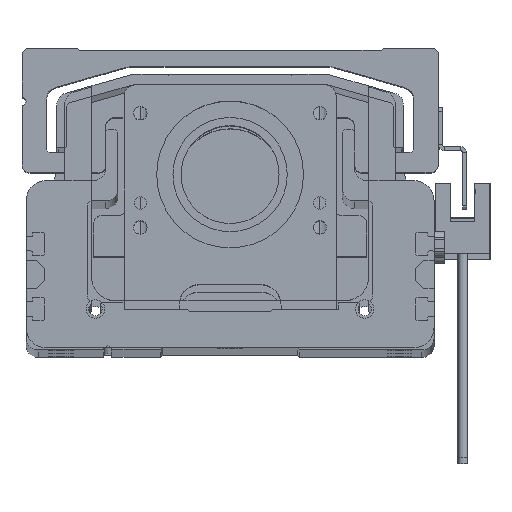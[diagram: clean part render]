
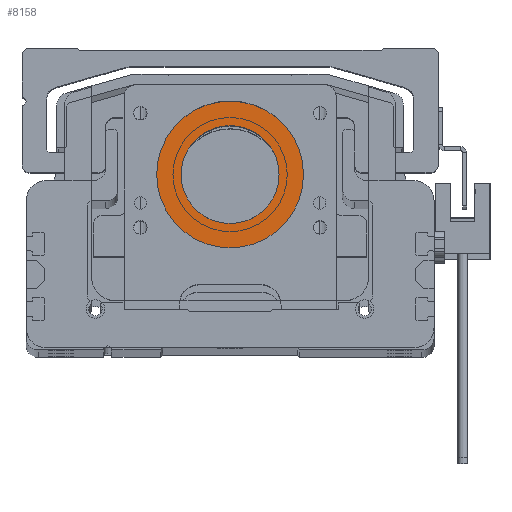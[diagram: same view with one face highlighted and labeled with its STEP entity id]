
A CAD part, top view. The second image highlights one B-rep face of the part: STEP entity #8158.
In plain terms, the highlighted planar face has unit normal (0, 0, 1).
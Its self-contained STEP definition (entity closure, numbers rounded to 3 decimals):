
#71 = CIRCLE ( 'NONE', #2900, 18. ) ;
#189 = DIRECTION ( 'NONE',  ( 1., 0., 0. ) ) ;
#2883 = EDGE_CURVE ( 'NONE', #12323, #16675, #22146, .T. ) ;
#2900 = AXIS2_PLACEMENT_3D ( 'NONE', #8488, #8443, #8392 ) ;
#3395 = EDGE_LOOP ( 'NONE', ( #14030, #28920 ) ) ;
#3732 = CIRCLE ( 'NONE', #7855, 18. ) ;
#5073 = CARTESIAN_POINT ( 'NONE',  ( -12., 33., 2.5 ) ) ;
#5138 = EDGE_CURVE ( 'NONE', #16675, #12323, #32303, .T. ) ;
#6641 = AXIS2_PLACEMENT_3D ( 'NONE', #8130, #7810, #7798 ) ;
#7798 = DIRECTION ( 'NONE',  ( 1., 0., 0. ) ) ;
#7810 = DIRECTION ( 'NONE',  ( 0., 0., 1. ) ) ;
#7855 = AXIS2_PLACEMENT_3D ( 'NONE', #30533, #15562, #189 ) ;
#7926 = PLANE ( 'NONE',  #6641 ) ;
#8130 = CARTESIAN_POINT ( 'NONE',  ( 0., 33., 2.5 ) ) ;
#8158 = ADVANCED_FACE ( 'NONE', ( #13468, #26857 ), #7926, .T. ) ;
#8392 = DIRECTION ( 'NONE',  ( 1., 0., 0. ) ) ;
#8443 = DIRECTION ( 'NONE',  ( 0., 0., 1. ) ) ;
#8488 = CARTESIAN_POINT ( 'NONE',  ( 0., 33., 2.5 ) ) ;
#9526 = VERTEX_POINT ( 'NONE', #27556 ) ;
#12083 = ORIENTED_EDGE ( 'NONE', *, *, #2883, .F. ) ;
#12323 = VERTEX_POINT ( 'NONE', #21909 ) ;
#12705 = VERTEX_POINT ( 'NONE', #14767 ) ;
#13468 = FACE_OUTER_BOUND ( 'NONE', #3395, .T. ) ;
#14030 = ORIENTED_EDGE ( 'NONE', *, *, #29216, .T. ) ;
#14767 = CARTESIAN_POINT ( 'NONE',  ( 18., 33., 2.5 ) ) ;
#15562 = DIRECTION ( 'NONE',  ( 0., 0., 1. ) ) ;
#16675 = VERTEX_POINT ( 'NONE', #5073 ) ;
#18104 = DIRECTION ( 'NONE',  ( 1., 0., 0. ) ) ;
#18149 = DIRECTION ( 'NONE',  ( 0., 0., 1. ) ) ;
#18216 = CARTESIAN_POINT ( 'NONE',  ( 0., 33., 2.5 ) ) ;
#20104 = EDGE_CURVE ( 'NONE', #9526, #12705, #71, .T. ) ;
#21909 = CARTESIAN_POINT ( 'NONE',  ( 12., 33., 2.5 ) ) ;
#22146 = CIRCLE ( 'NONE', #29374, 12. ) ;
#22633 = DIRECTION ( 'NONE',  ( 1., 0., 0. ) ) ;
#22643 = DIRECTION ( 'NONE',  ( 0., 0., 1. ) ) ;
#22710 = CARTESIAN_POINT ( 'NONE',  ( 0., 33., 2.5 ) ) ;
#24581 = ORIENTED_EDGE ( 'NONE', *, *, #5138, .F. ) ;
#26857 = FACE_BOUND ( 'NONE', #28022, .T. ) ;
#27556 = CARTESIAN_POINT ( 'NONE',  ( -18., 33., 2.5 ) ) ;
#28022 = EDGE_LOOP ( 'NONE', ( #12083, #24581 ) ) ;
#28920 = ORIENTED_EDGE ( 'NONE', *, *, #20104, .T. ) ;
#29216 = EDGE_CURVE ( 'NONE', #12705, #9526, #3732, .T. ) ;
#29374 = AXIS2_PLACEMENT_3D ( 'NONE', #18216, #18149, #18104 ) ;
#30533 = CARTESIAN_POINT ( 'NONE',  ( 0., 33., 2.5 ) ) ;
#32303 = CIRCLE ( 'NONE', #32561, 12. ) ;
#32561 = AXIS2_PLACEMENT_3D ( 'NONE', #22710, #22643, #22633 ) ;
